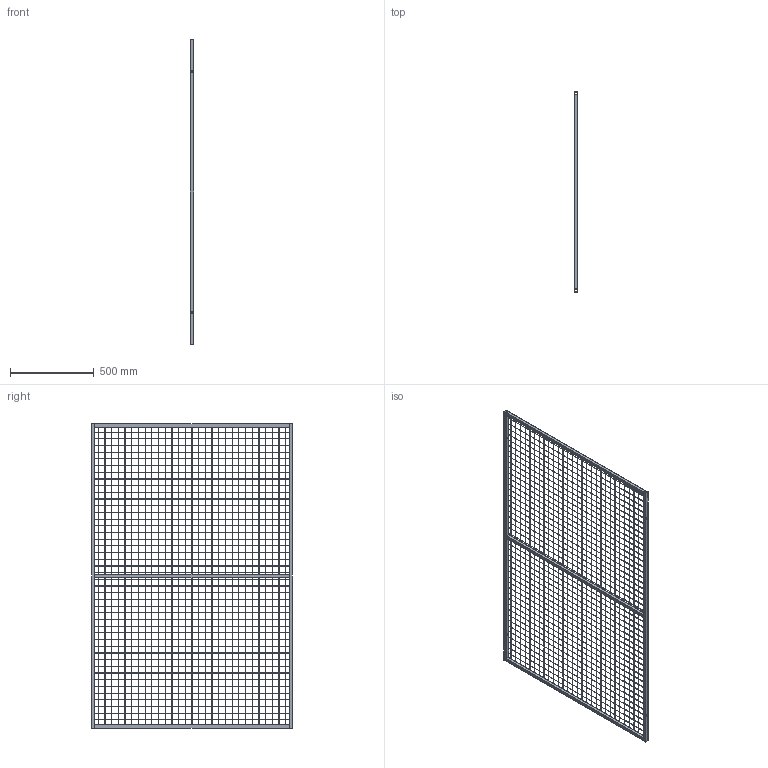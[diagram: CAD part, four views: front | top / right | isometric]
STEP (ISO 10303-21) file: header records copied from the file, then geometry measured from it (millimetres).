
FILE_DESCRIPTION (( 'STEP AP203' ), '1' );
FILE_NAME ('1200.STEP', '2023-03-14T02:54:40', ( '504148165@qq.com' ), ( '' ), 'SwSTEP 2.0', 'SolidWorks 2021', '' );
FILE_SCHEMA (( 'CONFIG_CONTROL_DESIGN' ));
Length unit declared in the file: millimetre
Products named in the file (4): 1200; 1200厙え; 1820
Assembly tree (6 placements, depth 2):
  1200
    1820  x2
    1200  x3
    1200厙え
Bounding box: 21 x 1200 x 1820 mm (x, y, z)
Volume: 1128143.4 mm3; surface area: 1442592 mm2
Topology: 78 solids, 78 shells, 504 faces, 1044 edges, 696 vertices
Faces by surface type: plane 488, cylinder 16
Entity records: 12338 total; most frequent: CARTESIAN_POINT 2055, DIRECTION 1914, ORIENTED_EDGE 1896, EDGE_CURVE 948, LINE 932, VECTOR 932, VERTEX_POINT 632, AXIS2_PLACEMENT_3D 491
